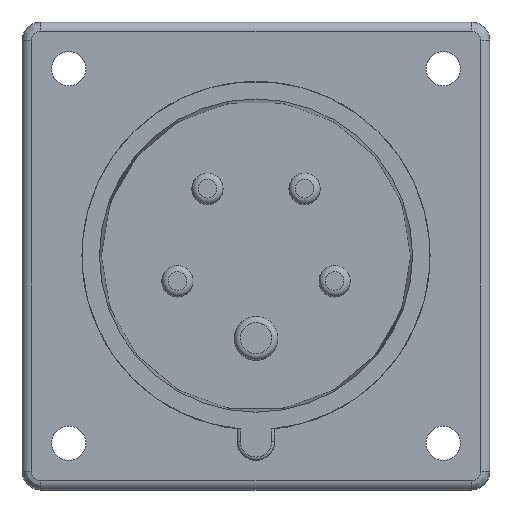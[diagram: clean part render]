
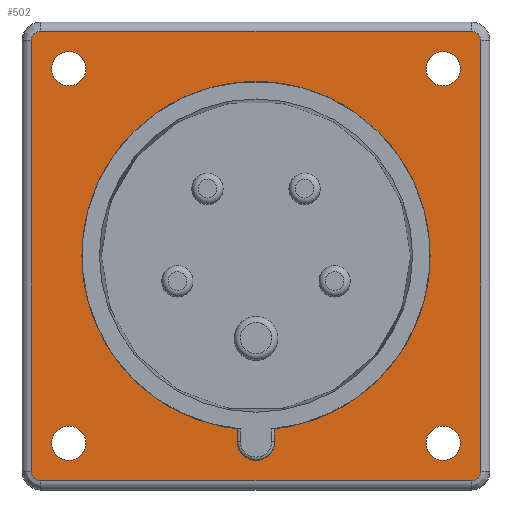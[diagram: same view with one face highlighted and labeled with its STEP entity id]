
A CAD part, top view. The second image highlights one B-rep face of the part: STEP entity #502.
In plain terms, the highlighted planar face has unit normal (0, 0, 1).
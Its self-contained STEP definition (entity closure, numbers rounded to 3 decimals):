
#502 = ADVANCED_FACE('',(#503,#573,#593,#613,#633,#653),#673,.T.);
#503 = FACE_BOUND('',#504,.T.);
#504 = EDGE_LOOP('',(#505,#515,#524,#532,#541,#549,#558,#566));
#505 = ORIENTED_EDGE('',*,*,#506,.T.);
#506 = EDGE_CURVE('',#507,#509,#511,.T.);
#507 = VERTEX_POINT('',#508);
#508 = CARTESIAN_POINT('',(-36.,34.5,5.));
#509 = VERTEX_POINT('',#510);
#510 = CARTESIAN_POINT('',(-36.,-34.5,5.));
#511 = LINE('',#512,#513);
#512 = CARTESIAN_POINT('',(-36.,34.5,5.));
#513 = VECTOR('',#514,1.);
#514 = DIRECTION('',(0.,-1.,0.));
#515 = ORIENTED_EDGE('',*,*,#516,.T.);
#516 = EDGE_CURVE('',#509,#517,#519,.T.);
#517 = VERTEX_POINT('',#518);
#518 = CARTESIAN_POINT('',(-34.5,-36.,5.));
#519 = CIRCLE('',#520,1.5);
#520 = AXIS2_PLACEMENT_3D('',#521,#522,#523);
#521 = CARTESIAN_POINT('',(-34.5,-34.5,5.));
#522 = DIRECTION('',(0.,0.,1.));
#523 = DIRECTION('',(-1.,0.,0.));
#524 = ORIENTED_EDGE('',*,*,#525,.T.);
#525 = EDGE_CURVE('',#517,#526,#528,.T.);
#526 = VERTEX_POINT('',#527);
#527 = CARTESIAN_POINT('',(34.5,-36.,5.));
#528 = LINE('',#529,#530);
#529 = CARTESIAN_POINT('',(-34.5,-36.,5.));
#530 = VECTOR('',#531,1.);
#531 = DIRECTION('',(1.,0.,0.));
#532 = ORIENTED_EDGE('',*,*,#533,.T.);
#533 = EDGE_CURVE('',#526,#534,#536,.T.);
#534 = VERTEX_POINT('',#535);
#535 = CARTESIAN_POINT('',(36.,-34.5,5.));
#536 = CIRCLE('',#537,1.5);
#537 = AXIS2_PLACEMENT_3D('',#538,#539,#540);
#538 = CARTESIAN_POINT('',(34.5,-34.5,5.));
#539 = DIRECTION('',(0.,0.,1.));
#540 = DIRECTION('',(0.,-1.,0.));
#541 = ORIENTED_EDGE('',*,*,#542,.T.);
#542 = EDGE_CURVE('',#534,#543,#545,.T.);
#543 = VERTEX_POINT('',#544);
#544 = CARTESIAN_POINT('',(36.,34.5,5.));
#545 = LINE('',#546,#547);
#546 = CARTESIAN_POINT('',(36.,-34.5,5.));
#547 = VECTOR('',#548,1.);
#548 = DIRECTION('',(0.,1.,0.));
#549 = ORIENTED_EDGE('',*,*,#550,.T.);
#550 = EDGE_CURVE('',#543,#551,#553,.T.);
#551 = VERTEX_POINT('',#552);
#552 = CARTESIAN_POINT('',(34.5,36.,5.));
#553 = CIRCLE('',#554,1.5);
#554 = AXIS2_PLACEMENT_3D('',#555,#556,#557);
#555 = CARTESIAN_POINT('',(34.5,34.5,5.));
#556 = DIRECTION('',(0.,0.,1.));
#557 = DIRECTION('',(1.,0.,-0.));
#558 = ORIENTED_EDGE('',*,*,#559,.T.);
#559 = EDGE_CURVE('',#551,#560,#562,.T.);
#560 = VERTEX_POINT('',#561);
#561 = CARTESIAN_POINT('',(-34.5,36.,5.));
#562 = LINE('',#563,#564);
#563 = CARTESIAN_POINT('',(34.5,36.,5.));
#564 = VECTOR('',#565,1.);
#565 = DIRECTION('',(-1.,0.,0.));
#566 = ORIENTED_EDGE('',*,*,#567,.T.);
#567 = EDGE_CURVE('',#560,#507,#568,.T.);
#568 = CIRCLE('',#569,1.5);
#569 = AXIS2_PLACEMENT_3D('',#570,#571,#572);
#570 = CARTESIAN_POINT('',(-34.5,34.5,5.));
#571 = DIRECTION('',(0.,-0.,1.));
#572 = DIRECTION('',(0.,1.,0.));
#573 = FACE_BOUND('',#574,.T.);
#574 = EDGE_LOOP('',(#575,#586));
#575 = ORIENTED_EDGE('',*,*,#576,.F.);
#576 = EDGE_CURVE('',#577,#579,#581,.T.);
#577 = VERTEX_POINT('',#578);
#578 = CARTESIAN_POINT('',(27.25,30.,5.));
#579 = VERTEX_POINT('',#580);
#580 = CARTESIAN_POINT('',(32.75,30.,5.));
#581 = CIRCLE('',#582,2.75);
#582 = AXIS2_PLACEMENT_3D('',#583,#584,#585);
#583 = CARTESIAN_POINT('',(30.,30.,5.));
#584 = DIRECTION('',(0.,0.,1.));
#585 = DIRECTION('',(-1.,0.,0.));
#586 = ORIENTED_EDGE('',*,*,#587,.F.);
#587 = EDGE_CURVE('',#579,#577,#588,.T.);
#588 = CIRCLE('',#589,2.75);
#589 = AXIS2_PLACEMENT_3D('',#590,#591,#592);
#590 = CARTESIAN_POINT('',(30.,30.,5.));
#591 = DIRECTION('',(0.,0.,1.));
#592 = DIRECTION('',(1.,0.,-0.));
#593 = FACE_BOUND('',#594,.T.);
#594 = EDGE_LOOP('',(#595,#606));
#595 = ORIENTED_EDGE('',*,*,#596,.F.);
#596 = EDGE_CURVE('',#597,#599,#601,.T.);
#597 = VERTEX_POINT('',#598);
#598 = CARTESIAN_POINT('',(-32.75,30.,5.));
#599 = VERTEX_POINT('',#600);
#600 = CARTESIAN_POINT('',(-27.25,30.,5.));
#601 = CIRCLE('',#602,2.75);
#602 = AXIS2_PLACEMENT_3D('',#603,#604,#605);
#603 = CARTESIAN_POINT('',(-30.,30.,5.));
#604 = DIRECTION('',(0.,0.,1.));
#605 = DIRECTION('',(-1.,0.,0.));
#606 = ORIENTED_EDGE('',*,*,#607,.F.);
#607 = EDGE_CURVE('',#599,#597,#608,.T.);
#608 = CIRCLE('',#609,2.75);
#609 = AXIS2_PLACEMENT_3D('',#610,#611,#612);
#610 = CARTESIAN_POINT('',(-30.,30.,5.));
#611 = DIRECTION('',(0.,0.,1.));
#612 = DIRECTION('',(1.,0.,-0.));
#613 = FACE_BOUND('',#614,.T.);
#614 = EDGE_LOOP('',(#615,#626));
#615 = ORIENTED_EDGE('',*,*,#616,.F.);
#616 = EDGE_CURVE('',#617,#619,#621,.T.);
#617 = VERTEX_POINT('',#618);
#618 = CARTESIAN_POINT('',(27.25,-30.,5.));
#619 = VERTEX_POINT('',#620);
#620 = CARTESIAN_POINT('',(32.75,-30.,5.));
#621 = CIRCLE('',#622,2.75);
#622 = AXIS2_PLACEMENT_3D('',#623,#624,#625);
#623 = CARTESIAN_POINT('',(30.,-30.,5.));
#624 = DIRECTION('',(0.,0.,1.));
#625 = DIRECTION('',(-1.,0.,0.));
#626 = ORIENTED_EDGE('',*,*,#627,.F.);
#627 = EDGE_CURVE('',#619,#617,#628,.T.);
#628 = CIRCLE('',#629,2.75);
#629 = AXIS2_PLACEMENT_3D('',#630,#631,#632);
#630 = CARTESIAN_POINT('',(30.,-30.,5.));
#631 = DIRECTION('',(0.,0.,1.));
#632 = DIRECTION('',(1.,0.,-0.));
#633 = FACE_BOUND('',#634,.T.);
#634 = EDGE_LOOP('',(#635,#646));
#635 = ORIENTED_EDGE('',*,*,#636,.F.);
#636 = EDGE_CURVE('',#637,#639,#641,.T.);
#637 = VERTEX_POINT('',#638);
#638 = CARTESIAN_POINT('',(-32.75,-30.,5.));
#639 = VERTEX_POINT('',#640);
#640 = CARTESIAN_POINT('',(-27.25,-30.,5.));
#641 = CIRCLE('',#642,2.75);
#642 = AXIS2_PLACEMENT_3D('',#643,#644,#645);
#643 = CARTESIAN_POINT('',(-30.,-30.,5.));
#644 = DIRECTION('',(0.,0.,1.));
#645 = DIRECTION('',(-1.,0.,0.));
#646 = ORIENTED_EDGE('',*,*,#647,.F.);
#647 = EDGE_CURVE('',#639,#637,#648,.T.);
#648 = CIRCLE('',#649,2.75);
#649 = AXIS2_PLACEMENT_3D('',#650,#651,#652);
#650 = CARTESIAN_POINT('',(-30.,-30.,5.));
#651 = DIRECTION('',(0.,0.,1.));
#652 = DIRECTION('',(1.,0.,-0.));
#653 = FACE_BOUND('',#654,.T.);
#654 = EDGE_LOOP('',(#655,#666));
#655 = ORIENTED_EDGE('',*,*,#656,.F.);
#656 = EDGE_CURVE('',#657,#659,#661,.T.);
#657 = VERTEX_POINT('',#658);
#658 = CARTESIAN_POINT('',(-27.9,0.,5.));
#659 = VERTEX_POINT('',#660);
#660 = CARTESIAN_POINT('',(27.9,0.,5.));
#661 = CIRCLE('',#662,27.9);
#662 = AXIS2_PLACEMENT_3D('',#663,#664,#665);
#663 = CARTESIAN_POINT('',(0.,0.,5.));
#664 = DIRECTION('',(0.,0.,1.));
#665 = DIRECTION('',(-1.,0.,0.));
#666 = ORIENTED_EDGE('',*,*,#667,.F.);
#667 = EDGE_CURVE('',#659,#657,#668,.T.);
#668 = CIRCLE('',#669,27.9);
#669 = AXIS2_PLACEMENT_3D('',#670,#671,#672);
#670 = CARTESIAN_POINT('',(0.,0.,5.));
#671 = DIRECTION('',(0.,0.,1.));
#672 = DIRECTION('',(1.,0.,-0.));
#673 = PLANE('',#674);
#674 = AXIS2_PLACEMENT_3D('',#675,#676,#677);
#675 = CARTESIAN_POINT('',(0.,0.,5.));
#676 = DIRECTION('',(0.,0.,1.));
#677 = DIRECTION('',(-1.,0.,0.));
